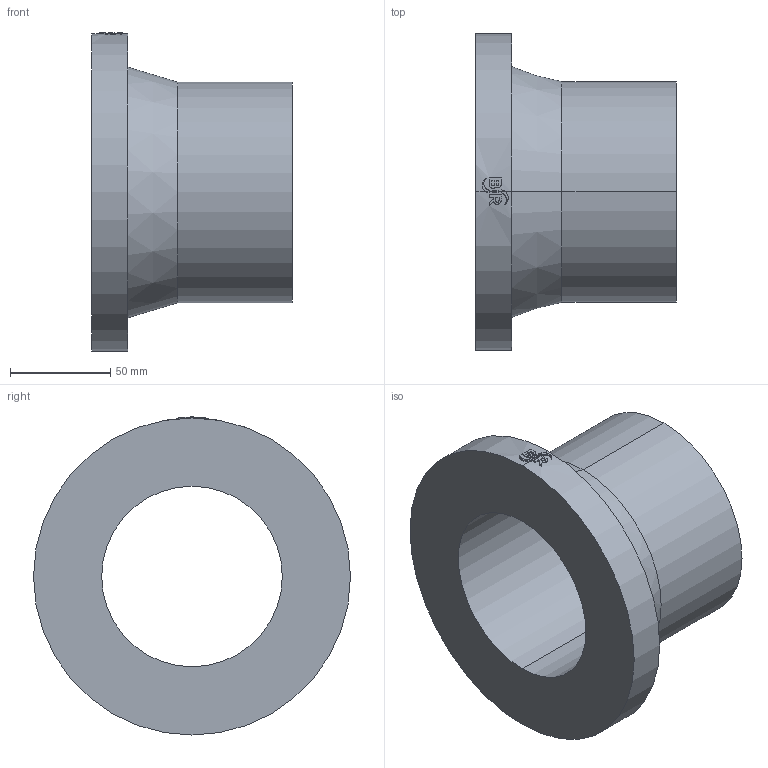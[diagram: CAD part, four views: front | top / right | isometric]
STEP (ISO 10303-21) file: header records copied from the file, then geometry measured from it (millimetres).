
FILE_DESCRIPTION (( 'STEP AP214' ), '1' );
FILE_NAME ('233514F015.STEP', '2018-07-20T11:50:52', ( '' ), ( '' ), 'SwSTEP 2.0', 'SolidWorks 2017', '' );
FILE_SCHEMA (( 'AUTOMOTIVE_DESIGN' ));
Length unit declared in the file: millimetre
Products named in the file (1): 233514F015
Bounding box: 100 x 158 x 158.5 mm (x, y, z)
Volume: 529920.9 mm3; surface area: 90320 mm2
Topology: 1 solids, 1 shells, 60 faces, 154 edges, 102 vertices
Faces by surface type: cylinder 29, plane 29, cone 2
Entity records: 2859 total; most frequent: CARTESIAN_POINT 742, ORIENTED_EDGE 308, DIRECTION 282, EDGE_CURVE 154, AXIS2_PLACEMENT_3D 107, VERTEX_POINT 102, VECTOR 68, LINE 68
